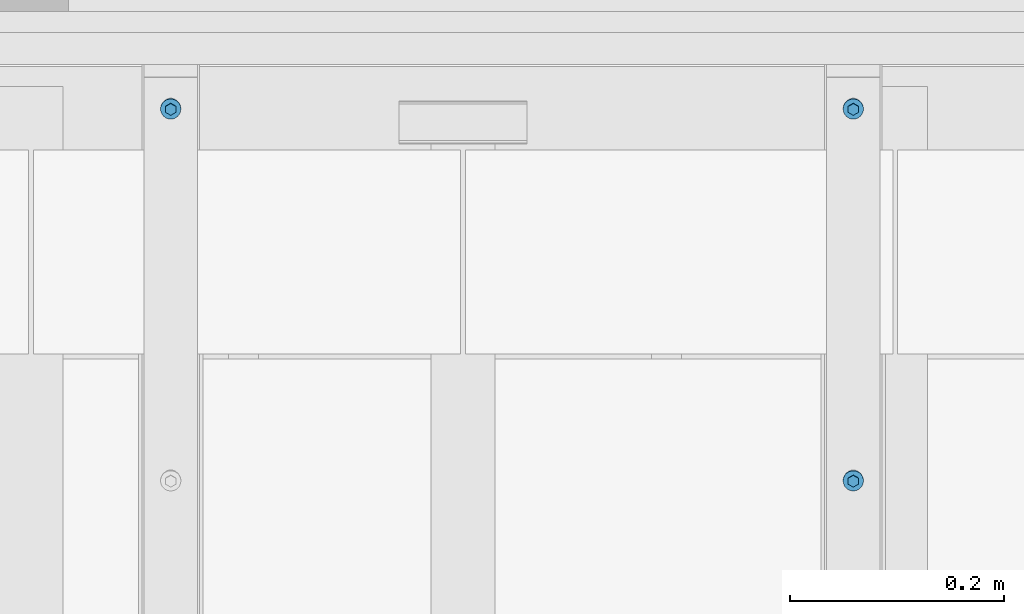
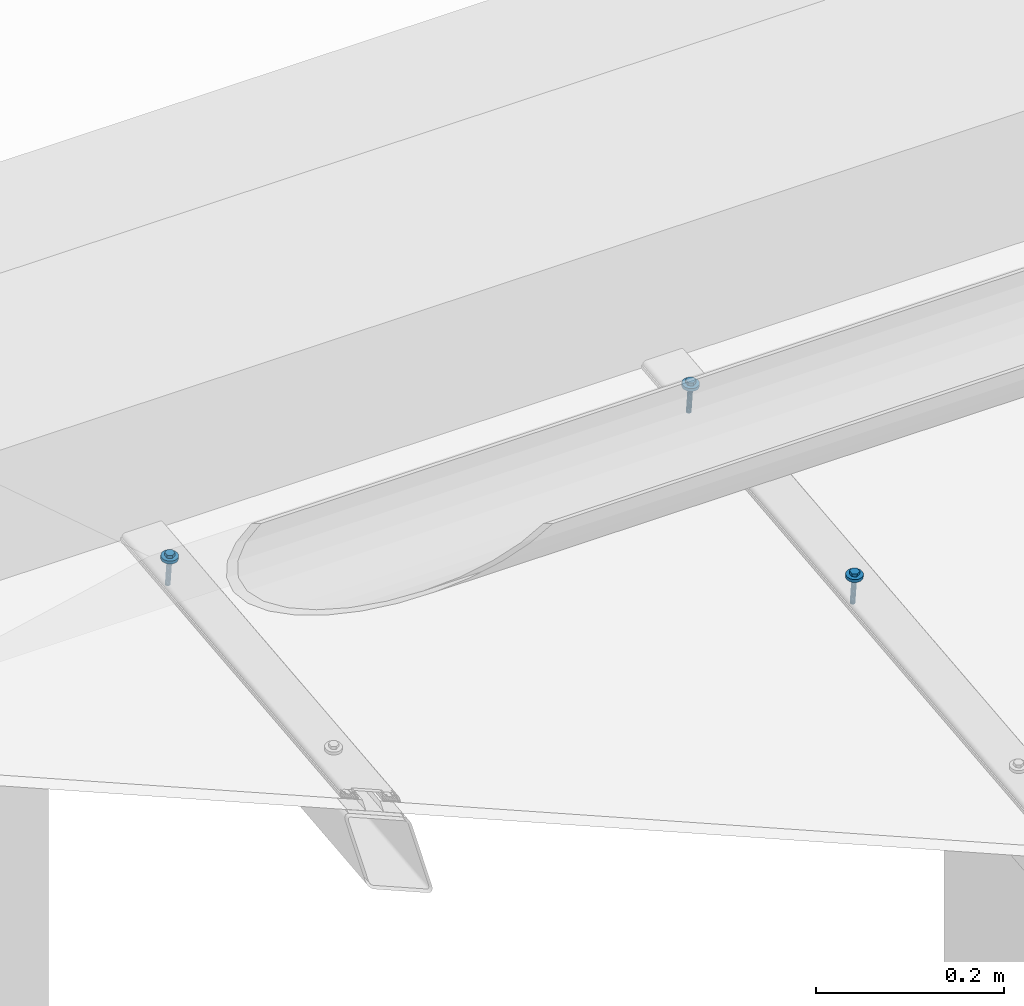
# One storey, part 75 of 162: 3 mechanical fasteners.
"""IFC2X3 building model written with IfcOpenShell, lengths in millimetres."""

from ifc_helpers import new_model, entity, si_unit, converted_unit, origin_with_axes, place, context, project, spatial, faceted_brep, element, save


model = new_model("IFC2X3")

# Units and contexts
model_context = context("Model", 3, precision=1e-09, world=origin_with_axes())
ifc_project = project(units=[si_unit("LENGTHUNIT", "METRE", prefix="MILLI"), si_unit("AREAUNIT", "SQUARE_METRE"), si_unit("VOLUMEUNIT", "CUBIC_METRE"), converted_unit("PLANEANGLEUNIT", "DEGREE", entity("IfcPlaneAngleMeasure", 0.01745329), si_unit("PLANEANGLEUNIT", "RADIAN"), dimensions=[0, 0, 0, 0, 0, 0, 0])], contexts=[model_context])

# Site, building, storey
site_placement = place(None, origin_with_axes())
site = spatial("IfcSite", under=ifc_project, at=site_placement, Name="Hermannstra?e 1a, 60318 Frankfurt", CompositionType="ELEMENT")
building_placement = place(site_placement, origin_with_axes())
building = spatial("IfcBuilding", under=site, at=building_placement, Name="Struktur 1", CompositionType="ELEMENT")
storey_placement = place(building_placement, origin_with_axes())
storey = spatial("IfcBuildingStorey", under=building, at=storey_placement, Name="Default Storey", CompositionType="ELEMENT", Elevation=0.0)

# Mechanical fasteners
mechanical_fastener_1_placement = place(None, origin_with_axes())
element("IfcMechanicalFastener", 1, at=mechanical_fastener_1_placement, inside=storey, ObjectType="-", NominalDiameter=6.0, NominalLength=40.0, context=model_context, shape_type="Brep", body=[
    faceted_brep([(3859.309364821, 2644.118266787, 17523.650958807), (3859.309364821, 2644.53638064, 17519.672871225), (3859.491904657, 2642.69317547, 17519.479142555), (3859.491904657, 2642.275061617, 17523.457230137), (3860.032509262, 2640.920803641, 17519.29285877), (3860.032509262, 2640.502689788, 17523.270946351), (3860.910403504, 2639.287376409, 17519.12117865), (3860.910403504, 2638.869262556, 17523.099266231), (3862.0918504, 2637.855665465, 17518.970699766), (3862.0918504, 2637.437551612, 17522.948787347), (3863.531447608, 2636.680690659, 17518.847204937), (3863.531447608, 2636.262576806, 17522.825292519), (3865.173872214, 2635.807605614, 17518.755440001), (3865.173872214, 2635.389491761, 17522.733527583), (3866.956006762, 2635.269962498, 17518.698931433), (3866.956006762, 2634.851848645, 17522.677019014), (3868.809364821, 2635.088422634, 17518.679850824), (3868.809364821, 2634.670308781, 17522.657938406), (3870.66272288, 2635.269962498, 17518.698931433), (3870.66272288, 2634.851848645, 17522.677019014), (3872.444857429, 2635.807605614, 17518.755440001), (3872.444857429, 2635.389491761, 17522.733527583), (3874.087282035, 2636.680690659, 17518.847204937), (3874.087282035, 2636.262576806, 17522.825292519), (3875.526879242, 2637.855665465, 17518.970699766), (3875.526879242, 2637.437551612, 17522.948787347), (3876.708326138, 2639.287376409, 17519.12117865), (3876.708326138, 2638.869262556, 17523.099266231), (3877.58622038, 2640.920803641, 17519.29285877), (3877.58622038, 2640.502689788, 17523.270946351), (3878.126824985, 2642.69317547, 17519.479142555), (3878.126824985, 2642.275061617, 17523.457230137), (3878.309364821, 2644.53638064, 17519.672871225), (3878.309364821, 2644.118266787, 17523.650958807), (3878.126824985, 2646.37958581, 17519.866599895), (3878.126824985, 2645.961471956, 17523.844687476), (3877.58622038, 2648.151957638, 17520.052883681), (3877.58622038, 2647.733843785, 17524.030971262), (3876.708326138, 2649.785384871, 17520.224563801), (3876.708326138, 2649.367271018, 17524.202651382), (3875.526879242, 2651.217095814, 17520.375042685), (3875.526879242, 2650.798981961, 17524.353130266), (3874.087282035, 2652.39207062, 17520.498537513), (3874.087282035, 2651.973956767, 17524.476625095), (3872.444857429, 2653.265155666, 17520.590302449), (3872.444857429, 2652.847041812, 17524.568390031), (3870.66272288, 2653.802798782, 17520.646811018), (3870.66272288, 2653.384684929, 17524.624898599), (3868.809364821, 2653.984338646, 17520.665891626), (3868.809364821, 2653.566224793, 17524.643979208), (3866.956006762, 2653.802798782, 17520.646811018), (3866.956006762, 2653.384684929, 17524.624898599), (3865.173872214, 2653.265155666, 17520.590302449), (3865.173872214, 2652.847041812, 17524.568390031), (3863.531447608, 2652.39207062, 17520.498537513), (3863.531447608, 2651.973956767, 17524.476625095), (3862.0918504, 2651.217095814, 17520.375042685), (3862.0918504, 2650.798981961, 17524.353130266), (3860.910403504, 2649.785384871, 17520.224563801), (3860.910403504, 2649.367271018, 17524.202651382), (3860.032509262, 2648.151957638, 17520.052883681), (3860.032509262, 2647.733843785, 17524.030971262), (3859.491904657, 2646.37958581, 17519.866599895), (3859.491904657, 2645.961471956, 17523.844687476)], [[[0, 1, 2, 3]], [[3, 2, 4, 5]], [[5, 4, 6, 7]], [[7, 6, 8, 9]], [[9, 8, 10, 11]], [[11, 10, 12, 13]], [[13, 12, 14, 15]], [[15, 14, 16, 17]], [[17, 16, 18, 19]], [[19, 18, 20, 21]], [[21, 20, 22, 23]], [[23, 22, 24, 25]], [[25, 24, 26, 27]], [[27, 26, 28, 29]], [[29, 28, 30, 31]], [[31, 30, 32, 33]], [[33, 32, 34, 35]], [[35, 34, 36, 37]], [[37, 36, 38, 39]], [[39, 38, 40, 41]], [[41, 40, 42, 43]], [[43, 42, 44, 45]], [[45, 44, 46, 47]], [[47, 46, 48, 49]], [[49, 48, 50, 51]], [[51, 50, 52, 53]], [[53, 52, 54, 55]], [[55, 54, 56, 57]], [[57, 56, 58, 59]], [[59, 58, 60, 61]], [[61, 60, 62, 63]], [[63, 62, 1, 0]], [[0, 3, 5, 7, 9, 11, 13, 15, 17, 19, 21, 23, 25, 27, 29, 31, 33, 35, 37, 39, 41, 43, 45, 47, 49, 51, 53, 55, 57, 59, 61, 63]], [[1, 62, 60, 58, 56, 54, 52, 50, 48, 46, 44, 42, 40, 38, 36, 34, 32, 30, 28, 26, 24, 22, 20, 18, 16, 14, 12, 10, 8, 6, 4, 2]]]),
    faceted_brep([(3873.594155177, 2641.370900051, 17523.362198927), (3873.594155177, 2640.952786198, 17527.340286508), (3868.809364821, 2638.205419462, 17527.051526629), (3868.809364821, 2638.623533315, 17523.073439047), (3864.024574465, 2640.952786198, 17527.340286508), (3864.024574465, 2641.370900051, 17523.362198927), (3864.024574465, 2646.44751967, 17527.917806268), (3864.024574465, 2646.865633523, 17523.939718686), (3868.809364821, 2649.194886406, 17528.206566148), (3868.809364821, 2649.613000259, 17524.228478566), (3873.594155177, 2646.44751967, 17527.917806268), (3873.594155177, 2646.865633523, 17523.939718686)], [[[0, 1, 2, 3]], [[3, 2, 4, 5]], [[5, 4, 6, 7]], [[7, 6, 8, 9]], [[9, 8, 10, 11]], [[11, 10, 1, 0]], [[4, 2, 1, 10, 8, 6]], [[0, 3, 5, 7, 9, 11]]]),
    faceted_brep([(3865.809364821, 2644.53638064, 17519.672871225), (3865.809364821, 2647.881291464, 17487.848170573), (3866.037726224, 2646.739530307, 17487.72816664), (3866.037726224, 2643.394619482, 17519.552867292), (3866.688044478, 2645.771591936, 17487.626432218), (3866.688044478, 2642.426681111, 17519.45113287), (3867.661314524, 2645.124836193, 17487.55845545), (3867.661314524, 2641.779925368, 17519.383156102), (3868.809364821, 2644.897725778, 17487.534585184), (3868.809364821, 2641.552814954, 17519.359285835), (3869.957415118, 2645.124836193, 17487.55845545), (3869.957415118, 2641.779925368, 17519.383156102), (3870.930685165, 2645.771591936, 17487.626432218), (3870.930685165, 2642.426681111, 17519.45113287), (3871.581003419, 2646.739530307, 17487.72816664), (3871.581003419, 2643.394619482, 17519.552867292), (3871.809364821, 2647.881291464, 17487.848170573), (3871.809364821, 2644.53638064, 17519.672871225), (3871.581003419, 2649.023052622, 17487.968174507), (3871.581003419, 2645.678141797, 17519.792875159), (3870.930685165, 2649.990990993, 17488.069908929), (3870.930685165, 2646.646080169, 17519.894609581), (3869.957415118, 2650.637746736, 17488.137885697), (3869.957415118, 2647.292835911, 17519.962586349), (3868.809364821, 2650.86485715, 17488.161755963), (3868.809364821, 2647.519946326, 17519.986456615), (3867.661314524, 2650.637746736, 17488.137885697), (3867.661314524, 2647.292835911, 17519.962586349), (3866.688044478, 2649.990990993, 17488.069908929), (3866.688044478, 2646.646080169, 17519.894609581), (3866.037726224, 2649.023052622, 17487.968174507), (3866.037726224, 2645.678141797, 17519.792875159)], [[[0, 1, 2, 3]], [[3, 2, 4, 5]], [[5, 4, 6, 7]], [[7, 6, 8, 9]], [[9, 8, 10, 11]], [[11, 10, 12, 13]], [[13, 12, 14, 15]], [[15, 14, 16, 17]], [[17, 16, 18, 19]], [[19, 18, 20, 21]], [[21, 20, 22, 23]], [[23, 22, 24, 25]], [[25, 24, 26, 27]], [[27, 26, 28, 29]], [[29, 28, 30, 31]], [[31, 30, 1, 0]], [[0, 3, 5, 7, 9, 11, 13, 15, 17, 19, 21, 23, 25, 27, 29, 31]], [[1, 30, 28, 26, 24, 22, 20, 18, 16, 14, 12, 10, 8, 6, 4, 2]]]),
    faceted_brep([(3865.809364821, 2647.881291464, 17487.848170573), (3865.809364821, 2648.299405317, 17483.870082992), (3866.037726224, 2647.15764416, 17483.750079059), (3866.037726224, 2646.739530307, 17487.72816664), (3866.688044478, 2646.189705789, 17483.648344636), (3866.688044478, 2645.771591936, 17487.626432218), (3867.661314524, 2645.542950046, 17483.580367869), (3867.661314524, 2645.124836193, 17487.55845545), (3868.809364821, 2645.315839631, 17483.556497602), (3868.809364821, 2644.897725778, 17487.534585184), (3869.957415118, 2645.542950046, 17483.580367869), (3869.957415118, 2645.124836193, 17487.55845545), (3870.930685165, 2646.189705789, 17483.648344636), (3870.930685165, 2645.771591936, 17487.626432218), (3871.581003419, 2647.15764416, 17483.750079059), (3871.581003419, 2646.739530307, 17487.72816664), (3871.809364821, 2648.299405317, 17483.870082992), (3871.809364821, 2647.881291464, 17487.848170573), (3871.581003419, 2649.441166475, 17483.990086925), (3871.581003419, 2649.023052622, 17487.968174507), (3870.930685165, 2650.409104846, 17484.091821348), (3870.930685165, 2649.990990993, 17488.069908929), (3869.957415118, 2651.055860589, 17484.159798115), (3869.957415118, 2650.637746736, 17488.137885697), (3868.809364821, 2651.282971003, 17484.183668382), (3868.809364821, 2650.86485715, 17488.161755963), (3867.661314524, 2651.055860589, 17484.159798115), (3867.661314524, 2650.637746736, 17488.137885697), (3866.688044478, 2650.409104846, 17484.091821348), (3866.688044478, 2649.990990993, 17488.069908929), (3866.037726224, 2649.441166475, 17483.990086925), (3866.037726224, 2649.023052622, 17487.968174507)], [[[0, 1, 2, 3]], [[3, 2, 4, 5]], [[5, 4, 6, 7]], [[7, 6, 8, 9]], [[9, 8, 10, 11]], [[11, 10, 12, 13]], [[13, 12, 14, 15]], [[15, 14, 16, 17]], [[17, 16, 18, 19]], [[19, 18, 20, 21]], [[21, 20, 22, 23]], [[23, 22, 24, 25]], [[25, 24, 26, 27]], [[27, 26, 28, 29]], [[29, 28, 30, 31]], [[31, 30, 1, 0]], [[0, 3, 5, 7, 9, 11, 13, 15, 17, 19, 21, 23, 25, 27, 29, 31]], [[1, 30, 28, 26, 24, 22, 20, 18, 16, 14, 12, 10, 8, 6, 4, 2]]]),
])
mechanical_fastener_2_placement = place(None, origin_with_axes())
element("IfcMechanicalFastener", 2, at=mechanical_fastener_2_placement, inside=storey, ObjectType="-", NominalDiameter=6.0, NominalLength=40.0, context=model_context, shape_type="Brep", body=[
    faceted_brep([(4498.309364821, 2296.035603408, 17487.065996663), (4498.309364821, 2296.453717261, 17483.087909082), (4498.491904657, 2294.610512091, 17482.894180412), (4498.491904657, 2294.192398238, 17486.872267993), (4499.032509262, 2292.838140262, 17482.707896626), (4499.032509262, 2292.420026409, 17486.685984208), (4499.910403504, 2291.20471303, 17482.536216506), (4499.910403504, 2290.786599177, 17486.514304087), (4501.0918504, 2289.773002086, 17482.385737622), (4501.0918504, 2289.354888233, 17486.363825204), (4502.531447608, 2288.598027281, 17482.262242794), (4502.531447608, 2288.179913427, 17486.240330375), (4504.173872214, 2287.724942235, 17482.170477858), (4504.173872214, 2287.306828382, 17486.148565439), (4505.956006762, 2287.187299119, 17482.113969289), (4505.956006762, 2286.769185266, 17486.092056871), (4507.809364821, 2287.005759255, 17482.094888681), (4507.809364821, 2286.587645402, 17486.072976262), (4509.66272288, 2287.187299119, 17482.113969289), (4509.66272288, 2286.769185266, 17486.092056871), (4511.444857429, 2287.724942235, 17482.170477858), (4511.444857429, 2287.306828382, 17486.148565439), (4513.087282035, 2288.598027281, 17482.262242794), (4513.087282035, 2288.179913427, 17486.240330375), (4514.526879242, 2289.773002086, 17482.385737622), (4514.526879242, 2289.354888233, 17486.363825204), (4515.708326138, 2291.20471303, 17482.536216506), (4515.708326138, 2290.786599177, 17486.514304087), (4516.58622038, 2292.838140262, 17482.707896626), (4516.58622038, 2292.420026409, 17486.685984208), (4517.126824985, 2294.610512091, 17482.894180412), (4517.126824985, 2294.192398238, 17486.872267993), (4517.309364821, 2296.453717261, 17483.087909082), (4517.309364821, 2296.035603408, 17487.065996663), (4517.126824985, 2298.296922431, 17483.281637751), (4517.126824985, 2297.878808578, 17487.259725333), (4516.58622038, 2300.069294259, 17483.467921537), (4516.58622038, 2299.651180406, 17487.446009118), (4515.708326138, 2301.702721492, 17483.639601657), (4515.708326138, 2301.284607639, 17487.617689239), (4514.526879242, 2303.134432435, 17483.790080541), (4514.526879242, 2302.716318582, 17487.768168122), (4513.087282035, 2304.309407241, 17483.913575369), (4513.087282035, 2303.891293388, 17487.891662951), (4511.444857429, 2305.182492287, 17484.005340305), (4511.444857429, 2304.764378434, 17487.983427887), (4509.66272288, 2305.720135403, 17484.061848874), (4509.66272288, 2305.30202155, 17488.039936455), (4507.809364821, 2305.901675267, 17484.080929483), (4507.809364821, 2305.483561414, 17488.059017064), (4505.956006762, 2305.720135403, 17484.061848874), (4505.956006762, 2305.30202155, 17488.039936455), (4504.173872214, 2305.182492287, 17484.005340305), (4504.173872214, 2304.764378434, 17487.983427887), (4502.531447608, 2304.309407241, 17483.913575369), (4502.531447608, 2303.891293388, 17487.891662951), (4501.0918504, 2303.134432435, 17483.790080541), (4501.0918504, 2302.716318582, 17487.768168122), (4499.910403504, 2301.702721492, 17483.639601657), (4499.910403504, 2301.284607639, 17487.617689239), (4499.032509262, 2300.069294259, 17483.467921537), (4499.032509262, 2299.651180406, 17487.446009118), (4498.491904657, 2298.296922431, 17483.281637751), (4498.491904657, 2297.878808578, 17487.259725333)], [[[0, 1, 2, 3]], [[3, 2, 4, 5]], [[5, 4, 6, 7]], [[7, 6, 8, 9]], [[9, 8, 10, 11]], [[11, 10, 12, 13]], [[13, 12, 14, 15]], [[15, 14, 16, 17]], [[17, 16, 18, 19]], [[19, 18, 20, 21]], [[21, 20, 22, 23]], [[23, 22, 24, 25]], [[25, 24, 26, 27]], [[27, 26, 28, 29]], [[29, 28, 30, 31]], [[31, 30, 32, 33]], [[33, 32, 34, 35]], [[35, 34, 36, 37]], [[37, 36, 38, 39]], [[39, 38, 40, 41]], [[41, 40, 42, 43]], [[43, 42, 44, 45]], [[45, 44, 46, 47]], [[47, 46, 48, 49]], [[49, 48, 50, 51]], [[51, 50, 52, 53]], [[53, 52, 54, 55]], [[55, 54, 56, 57]], [[57, 56, 58, 59]], [[59, 58, 60, 61]], [[61, 60, 62, 63]], [[63, 62, 1, 0]], [[0, 3, 5, 7, 9, 11, 13, 15, 17, 19, 21, 23, 25, 27, 29, 31, 33, 35, 37, 39, 41, 43, 45, 47, 49, 51, 53, 55, 57, 59, 61, 63]], [[1, 62, 60, 58, 56, 54, 52, 50, 48, 46, 44, 42, 40, 38, 36, 34, 32, 30, 28, 26, 24, 22, 20, 18, 16, 14, 12, 10, 8, 6, 4, 2]]]),
    faceted_brep([(4512.594155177, 2293.288236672, 17486.777236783), (4512.594155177, 2292.870122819, 17490.755324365), (4507.809364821, 2290.122756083, 17490.466564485), (4507.809364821, 2290.540869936, 17486.488476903), (4503.024574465, 2292.870122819, 17490.755324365), (4503.024574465, 2293.288236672, 17486.777236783), (4503.024574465, 2298.364856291, 17491.332844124), (4503.024574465, 2298.782970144, 17487.354756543), (4507.809364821, 2301.112223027, 17491.621604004), (4507.809364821, 2301.53033688, 17487.643516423), (4512.594155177, 2298.364856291, 17491.332844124), (4512.594155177, 2298.782970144, 17487.354756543)], [[[0, 1, 2, 3]], [[3, 2, 4, 5]], [[5, 4, 6, 7]], [[7, 6, 8, 9]], [[9, 8, 10, 11]], [[11, 10, 1, 0]], [[4, 2, 1, 10, 8, 6]], [[0, 3, 5, 7, 9, 11]]]),
    faceted_brep([(4504.809364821, 2296.453717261, 17483.087909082), (4504.809364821, 2299.798628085, 17451.26320843), (4505.037726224, 2298.656866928, 17451.143204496), (4505.037726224, 2295.311956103, 17482.967905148), (4505.688044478, 2297.688928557, 17451.041470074), (4505.688044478, 2294.344017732, 17482.866170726), (4506.661314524, 2297.042172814, 17450.973493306), (4506.661314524, 2293.69726199, 17482.798193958), (4507.809364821, 2296.815062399, 17450.94962304), (4507.809364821, 2293.470151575, 17482.774323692), (4508.957415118, 2297.042172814, 17450.973493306), (4508.957415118, 2293.69726199, 17482.798193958), (4509.930685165, 2297.688928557, 17451.041470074), (4509.930685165, 2294.344017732, 17482.866170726), (4510.581003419, 2298.656866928, 17451.143204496), (4510.581003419, 2295.311956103, 17482.967905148), (4510.809364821, 2299.798628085, 17451.26320843), (4510.809364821, 2296.453717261, 17483.087909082), (4510.581003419, 2300.940389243, 17451.383212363), (4510.581003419, 2297.595478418, 17483.207913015), (4509.930685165, 2301.908327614, 17451.484946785), (4509.930685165, 2298.56341679, 17483.309647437), (4508.957415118, 2302.555083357, 17451.552923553), (4508.957415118, 2299.210172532, 17483.377624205), (4507.809364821, 2302.782193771, 17451.57679382), (4507.809364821, 2299.437282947, 17483.401494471), (4506.661314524, 2302.555083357, 17451.552923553), (4506.661314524, 2299.210172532, 17483.377624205), (4505.688044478, 2301.908327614, 17451.484946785), (4505.688044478, 2298.56341679, 17483.309647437), (4505.037726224, 2300.940389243, 17451.383212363), (4505.037726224, 2297.595478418, 17483.207913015)], [[[0, 1, 2, 3]], [[3, 2, 4, 5]], [[5, 4, 6, 7]], [[7, 6, 8, 9]], [[9, 8, 10, 11]], [[11, 10, 12, 13]], [[13, 12, 14, 15]], [[15, 14, 16, 17]], [[17, 16, 18, 19]], [[19, 18, 20, 21]], [[21, 20, 22, 23]], [[23, 22, 24, 25]], [[25, 24, 26, 27]], [[27, 26, 28, 29]], [[29, 28, 30, 31]], [[31, 30, 1, 0]], [[0, 3, 5, 7, 9, 11, 13, 15, 17, 19, 21, 23, 25, 27, 29, 31]], [[1, 30, 28, 26, 24, 22, 20, 18, 16, 14, 12, 10, 8, 6, 4, 2]]]),
    faceted_brep([(4504.809364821, 2299.798628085, 17451.26320843), (4504.809364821, 2300.216741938, 17447.285120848), (4505.037726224, 2299.074980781, 17447.165116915), (4505.037726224, 2298.656866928, 17451.143204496), (4505.688044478, 2298.10704241, 17447.063382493), (4505.688044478, 2297.688928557, 17451.041470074), (4506.661314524, 2297.460286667, 17446.995405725), (4506.661314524, 2297.042172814, 17450.973493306), (4507.809364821, 2297.233176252, 17446.971535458), (4507.809364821, 2296.815062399, 17450.94962304), (4508.957415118, 2297.460286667, 17446.995405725), (4508.957415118, 2297.042172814, 17450.973493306), (4509.930685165, 2298.10704241, 17447.063382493), (4509.930685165, 2297.688928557, 17451.041470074), (4510.581003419, 2299.074980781, 17447.165116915), (4510.581003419, 2298.656866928, 17451.143204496), (4510.809364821, 2300.216741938, 17447.285120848), (4510.809364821, 2299.798628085, 17451.26320843), (4510.581003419, 2301.358503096, 17447.405124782), (4510.581003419, 2300.940389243, 17451.383212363), (4509.930685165, 2302.326441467, 17447.506859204), (4509.930685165, 2301.908327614, 17451.484946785), (4508.957415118, 2302.97319721, 17447.574835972), (4508.957415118, 2302.555083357, 17451.552923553), (4507.809364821, 2303.200307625, 17447.598706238), (4507.809364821, 2302.782193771, 17451.57679382), (4506.661314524, 2302.97319721, 17447.574835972), (4506.661314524, 2302.555083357, 17451.552923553), (4505.688044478, 2302.326441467, 17447.506859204), (4505.688044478, 2301.908327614, 17451.484946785), (4505.037726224, 2301.358503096, 17447.405124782), (4505.037726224, 2300.940389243, 17451.383212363)], [[[0, 1, 2, 3]], [[3, 2, 4, 5]], [[5, 4, 6, 7]], [[7, 6, 8, 9]], [[9, 8, 10, 11]], [[11, 10, 12, 13]], [[13, 12, 14, 15]], [[15, 14, 16, 17]], [[17, 16, 18, 19]], [[19, 18, 20, 21]], [[21, 20, 22, 23]], [[23, 22, 24, 25]], [[25, 24, 26, 27]], [[27, 26, 28, 29]], [[29, 28, 30, 31]], [[31, 30, 1, 0]], [[0, 3, 5, 7, 9, 11, 13, 15, 17, 19, 21, 23, 25, 27, 29, 31]], [[1, 30, 28, 26, 24, 22, 20, 18, 16, 14, 12, 10, 8, 6, 4, 2]]]),
])
mechanical_fastener_3_placement = place(None, origin_with_axes())
element("IfcMechanicalFastener", 3, at=mechanical_fastener_3_placement, inside=storey, ObjectType="-", NominalDiameter=6.0, NominalLength=40.0, context=model_context, shape_type="Brep", body=[
    faceted_brep([(4498.309364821, 2644.118266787, 17523.650958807), (4498.309364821, 2644.53638064, 17519.672871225), (4498.491904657, 2642.69317547, 17519.479142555), (4498.491904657, 2642.275061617, 17523.457230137), (4499.032509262, 2640.920803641, 17519.29285877), (4499.032509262, 2640.502689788, 17523.270946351), (4499.910403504, 2639.287376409, 17519.12117865), (4499.910403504, 2638.869262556, 17523.099266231), (4501.0918504, 2637.855665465, 17518.970699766), (4501.0918504, 2637.437551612, 17522.948787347), (4502.531447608, 2636.680690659, 17518.847204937), (4502.531447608, 2636.262576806, 17522.825292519), (4504.173872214, 2635.807605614, 17518.755440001), (4504.173872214, 2635.389491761, 17522.733527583), (4505.956006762, 2635.269962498, 17518.698931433), (4505.956006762, 2634.851848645, 17522.677019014), (4507.809364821, 2635.088422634, 17518.679850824), (4507.809364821, 2634.670308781, 17522.657938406), (4509.66272288, 2635.269962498, 17518.698931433), (4509.66272288, 2634.851848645, 17522.677019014), (4511.444857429, 2635.807605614, 17518.755440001), (4511.444857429, 2635.389491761, 17522.733527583), (4513.087282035, 2636.680690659, 17518.847204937), (4513.087282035, 2636.262576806, 17522.825292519), (4514.526879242, 2637.855665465, 17518.970699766), (4514.526879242, 2637.437551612, 17522.948787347), (4515.708326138, 2639.287376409, 17519.12117865), (4515.708326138, 2638.869262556, 17523.099266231), (4516.58622038, 2640.920803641, 17519.29285877), (4516.58622038, 2640.502689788, 17523.270946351), (4517.126824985, 2642.69317547, 17519.479142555), (4517.126824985, 2642.275061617, 17523.457230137), (4517.309364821, 2644.53638064, 17519.672871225), (4517.309364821, 2644.118266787, 17523.650958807), (4517.126824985, 2646.37958581, 17519.866599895), (4517.126824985, 2645.961471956, 17523.844687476), (4516.58622038, 2648.151957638, 17520.052883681), (4516.58622038, 2647.733843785, 17524.030971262), (4515.708326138, 2649.785384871, 17520.224563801), (4515.708326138, 2649.367271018, 17524.202651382), (4514.526879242, 2651.217095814, 17520.375042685), (4514.526879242, 2650.798981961, 17524.353130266), (4513.087282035, 2652.39207062, 17520.498537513), (4513.087282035, 2651.973956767, 17524.476625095), (4511.444857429, 2653.265155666, 17520.590302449), (4511.444857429, 2652.847041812, 17524.568390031), (4509.66272288, 2653.802798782, 17520.646811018), (4509.66272288, 2653.384684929, 17524.624898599), (4507.809364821, 2653.984338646, 17520.665891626), (4507.809364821, 2653.566224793, 17524.643979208), (4505.956006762, 2653.802798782, 17520.646811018), (4505.956006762, 2653.384684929, 17524.624898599), (4504.173872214, 2653.265155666, 17520.590302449), (4504.173872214, 2652.847041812, 17524.568390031), (4502.531447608, 2652.39207062, 17520.498537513), (4502.531447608, 2651.973956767, 17524.476625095), (4501.0918504, 2651.217095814, 17520.375042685), (4501.0918504, 2650.798981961, 17524.353130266), (4499.910403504, 2649.785384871, 17520.224563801), (4499.910403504, 2649.367271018, 17524.202651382), (4499.032509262, 2648.151957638, 17520.052883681), (4499.032509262, 2647.733843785, 17524.030971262), (4498.491904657, 2646.37958581, 17519.866599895), (4498.491904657, 2645.961471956, 17523.844687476)], [[[0, 1, 2, 3]], [[3, 2, 4, 5]], [[5, 4, 6, 7]], [[7, 6, 8, 9]], [[9, 8, 10, 11]], [[11, 10, 12, 13]], [[13, 12, 14, 15]], [[15, 14, 16, 17]], [[17, 16, 18, 19]], [[19, 18, 20, 21]], [[21, 20, 22, 23]], [[23, 22, 24, 25]], [[25, 24, 26, 27]], [[27, 26, 28, 29]], [[29, 28, 30, 31]], [[31, 30, 32, 33]], [[33, 32, 34, 35]], [[35, 34, 36, 37]], [[37, 36, 38, 39]], [[39, 38, 40, 41]], [[41, 40, 42, 43]], [[43, 42, 44, 45]], [[45, 44, 46, 47]], [[47, 46, 48, 49]], [[49, 48, 50, 51]], [[51, 50, 52, 53]], [[53, 52, 54, 55]], [[55, 54, 56, 57]], [[57, 56, 58, 59]], [[59, 58, 60, 61]], [[61, 60, 62, 63]], [[63, 62, 1, 0]], [[0, 3, 5, 7, 9, 11, 13, 15, 17, 19, 21, 23, 25, 27, 29, 31, 33, 35, 37, 39, 41, 43, 45, 47, 49, 51, 53, 55, 57, 59, 61, 63]], [[1, 62, 60, 58, 56, 54, 52, 50, 48, 46, 44, 42, 40, 38, 36, 34, 32, 30, 28, 26, 24, 22, 20, 18, 16, 14, 12, 10, 8, 6, 4, 2]]]),
    faceted_brep([(4512.594155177, 2641.370900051, 17523.362198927), (4512.594155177, 2640.952786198, 17527.340286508), (4507.809364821, 2638.205419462, 17527.051526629), (4507.809364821, 2638.623533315, 17523.073439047), (4503.024574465, 2640.952786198, 17527.340286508), (4503.024574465, 2641.370900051, 17523.362198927), (4503.024574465, 2646.44751967, 17527.917806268), (4503.024574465, 2646.865633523, 17523.939718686), (4507.809364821, 2649.194886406, 17528.206566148), (4507.809364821, 2649.613000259, 17524.228478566), (4512.594155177, 2646.44751967, 17527.917806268), (4512.594155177, 2646.865633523, 17523.939718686)], [[[0, 1, 2, 3]], [[3, 2, 4, 5]], [[5, 4, 6, 7]], [[7, 6, 8, 9]], [[9, 8, 10, 11]], [[11, 10, 1, 0]], [[4, 2, 1, 10, 8, 6]], [[0, 3, 5, 7, 9, 11]]]),
    faceted_brep([(4504.809364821, 2644.53638064, 17519.672871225), (4504.809364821, 2647.881291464, 17487.848170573), (4505.037726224, 2646.739530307, 17487.72816664), (4505.037726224, 2643.394619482, 17519.552867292), (4505.688044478, 2645.771591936, 17487.626432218), (4505.688044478, 2642.426681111, 17519.45113287), (4506.661314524, 2645.124836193, 17487.55845545), (4506.661314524, 2641.779925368, 17519.383156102), (4507.809364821, 2644.897725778, 17487.534585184), (4507.809364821, 2641.552814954, 17519.359285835), (4508.957415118, 2645.124836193, 17487.55845545), (4508.957415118, 2641.779925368, 17519.383156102), (4509.930685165, 2645.771591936, 17487.626432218), (4509.930685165, 2642.426681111, 17519.45113287), (4510.581003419, 2646.739530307, 17487.72816664), (4510.581003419, 2643.394619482, 17519.552867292), (4510.809364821, 2647.881291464, 17487.848170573), (4510.809364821, 2644.53638064, 17519.672871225), (4510.581003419, 2649.023052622, 17487.968174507), (4510.581003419, 2645.678141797, 17519.792875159), (4509.930685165, 2649.990990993, 17488.069908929), (4509.930685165, 2646.646080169, 17519.894609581), (4508.957415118, 2650.637746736, 17488.137885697), (4508.957415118, 2647.292835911, 17519.962586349), (4507.809364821, 2650.86485715, 17488.161755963), (4507.809364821, 2647.519946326, 17519.986456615), (4506.661314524, 2650.637746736, 17488.137885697), (4506.661314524, 2647.292835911, 17519.962586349), (4505.688044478, 2649.990990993, 17488.069908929), (4505.688044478, 2646.646080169, 17519.894609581), (4505.037726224, 2649.023052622, 17487.968174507), (4505.037726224, 2645.678141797, 17519.792875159)], [[[0, 1, 2, 3]], [[3, 2, 4, 5]], [[5, 4, 6, 7]], [[7, 6, 8, 9]], [[9, 8, 10, 11]], [[11, 10, 12, 13]], [[13, 12, 14, 15]], [[15, 14, 16, 17]], [[17, 16, 18, 19]], [[19, 18, 20, 21]], [[21, 20, 22, 23]], [[23, 22, 24, 25]], [[25, 24, 26, 27]], [[27, 26, 28, 29]], [[29, 28, 30, 31]], [[31, 30, 1, 0]], [[0, 3, 5, 7, 9, 11, 13, 15, 17, 19, 21, 23, 25, 27, 29, 31]], [[1, 30, 28, 26, 24, 22, 20, 18, 16, 14, 12, 10, 8, 6, 4, 2]]]),
    faceted_brep([(4504.809364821, 2647.881291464, 17487.848170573), (4504.809364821, 2648.299405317, 17483.870082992), (4505.037726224, 2647.15764416, 17483.750079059), (4505.037726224, 2646.739530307, 17487.72816664), (4505.688044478, 2646.189705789, 17483.648344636), (4505.688044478, 2645.771591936, 17487.626432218), (4506.661314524, 2645.542950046, 17483.580367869), (4506.661314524, 2645.124836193, 17487.55845545), (4507.809364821, 2645.315839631, 17483.556497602), (4507.809364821, 2644.897725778, 17487.534585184), (4508.957415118, 2645.542950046, 17483.580367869), (4508.957415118, 2645.124836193, 17487.55845545), (4509.930685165, 2646.189705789, 17483.648344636), (4509.930685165, 2645.771591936, 17487.626432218), (4510.581003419, 2647.15764416, 17483.750079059), (4510.581003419, 2646.739530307, 17487.72816664), (4510.809364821, 2648.299405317, 17483.870082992), (4510.809364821, 2647.881291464, 17487.848170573), (4510.581003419, 2649.441166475, 17483.990086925), (4510.581003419, 2649.023052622, 17487.968174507), (4509.930685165, 2650.409104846, 17484.091821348), (4509.930685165, 2649.990990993, 17488.069908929), (4508.957415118, 2651.055860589, 17484.159798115), (4508.957415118, 2650.637746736, 17488.137885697), (4507.809364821, 2651.282971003, 17484.183668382), (4507.809364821, 2650.86485715, 17488.161755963), (4506.661314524, 2651.055860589, 17484.159798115), (4506.661314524, 2650.637746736, 17488.137885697), (4505.688044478, 2650.409104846, 17484.091821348), (4505.688044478, 2649.990990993, 17488.069908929), (4505.037726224, 2649.441166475, 17483.990086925), (4505.037726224, 2649.023052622, 17487.968174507)], [[[0, 1, 2, 3]], [[3, 2, 4, 5]], [[5, 4, 6, 7]], [[7, 6, 8, 9]], [[9, 8, 10, 11]], [[11, 10, 12, 13]], [[13, 12, 14, 15]], [[15, 14, 16, 17]], [[17, 16, 18, 19]], [[19, 18, 20, 21]], [[21, 20, 22, 23]], [[23, 22, 24, 25]], [[25, 24, 26, 27]], [[27, 26, 28, 29]], [[29, 28, 30, 31]], [[31, 30, 1, 0]], [[0, 3, 5, 7, 9, 11, 13, 15, 17, 19, 21, 23, 25, 27, 29, 31]], [[1, 30, 28, 26, 24, 22, 20, 18, 16, 14, 12, 10, 8, 6, 4, 2]]]),
])

save(model, "model.ifc")
